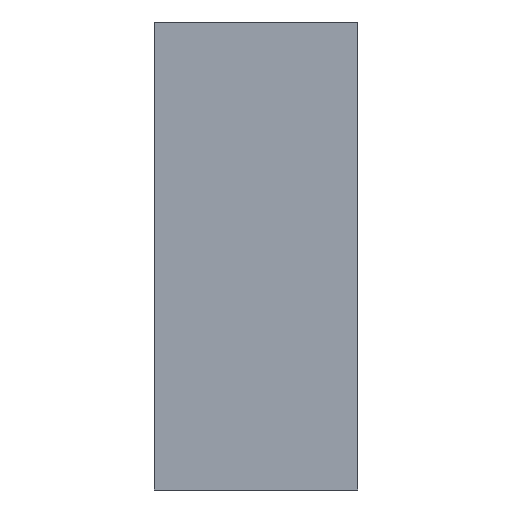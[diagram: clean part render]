
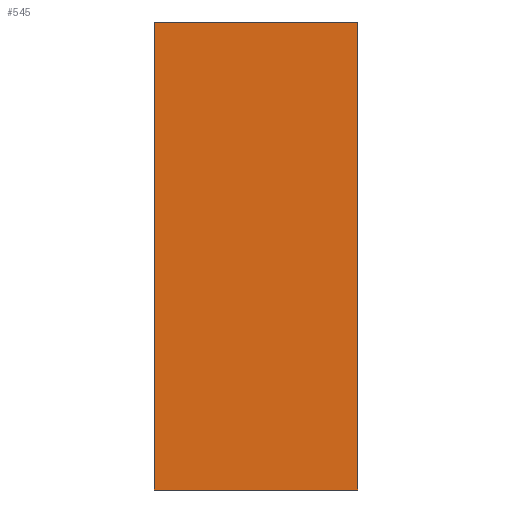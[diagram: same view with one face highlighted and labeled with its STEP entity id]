
A CAD part, front view. The second image highlights one B-rep face of the part: STEP entity #545.
In plain terms, the highlighted planar face has unit normal (0, -1, 0).
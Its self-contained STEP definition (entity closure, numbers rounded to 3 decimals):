
#489=CARTESIAN_POINT('',(100.0,0.,-115.));
#490=VERTEX_POINT('',#489);
#497=CARTESIAN_POINT('',(0.0,0.,-115.));
#498=VERTEX_POINT('',#497);
#499=CARTESIAN_POINT('',(0.0,0.,-115.));
#500=DIRECTION('',(1.0,0.0,0.0));
#501=VECTOR('',#500,100.0);
#502=LINE('',#499,#501);
#503=EDGE_CURVE('',#498,#490,#502,.T.);
#515=CARTESIAN_POINT('',(0.0,0.,-115.));
#516=DIRECTION('',(0.0,-1.0,0.0));
#517=DIRECTION('',(0.0,0.0,-1.0));
#518=AXIS2_PLACEMENT_3D('',#515,#516,#517);
#519=PLANE('',#518);
#520=CARTESIAN_POINT('',(100.0,0.,115.));
#521=VERTEX_POINT('',#520);
#522=CARTESIAN_POINT('',(100.0,0.,-115.));
#523=DIRECTION('',(0.0,0.0,1.0));
#524=VECTOR('',#523,230.0);
#525=LINE('',#522,#524);
#526=EDGE_CURVE('',#490,#521,#525,.T.);
#527=ORIENTED_EDGE('',*,*,#526,.T.);
#528=CARTESIAN_POINT('',(0.0,0.,115.));
#529=VERTEX_POINT('',#528);
#530=CARTESIAN_POINT('',(0.0,0.,115.));
#531=DIRECTION('',(1.0,0.0,0.0));
#532=VECTOR('',#531,100.0);
#533=LINE('',#530,#532);
#534=EDGE_CURVE('',#529,#521,#533,.T.);
#535=ORIENTED_EDGE('',*,*,#534,.F.);
#536=CARTESIAN_POINT('',(0.0,0.,115.));
#537=DIRECTION('',(0.0,0.0,-1.0));
#538=VECTOR('',#537,230.0);
#539=LINE('',#536,#538);
#540=EDGE_CURVE('',#529,#498,#539,.T.);
#541=ORIENTED_EDGE('',*,*,#540,.T.);
#542=ORIENTED_EDGE('',*,*,#503,.T.);
#543=EDGE_LOOP('',(#527,#535,#541,#542));
#544=FACE_OUTER_BOUND('',#543,.T.);
#545=ADVANCED_FACE('',(#544),#519,.T.);
